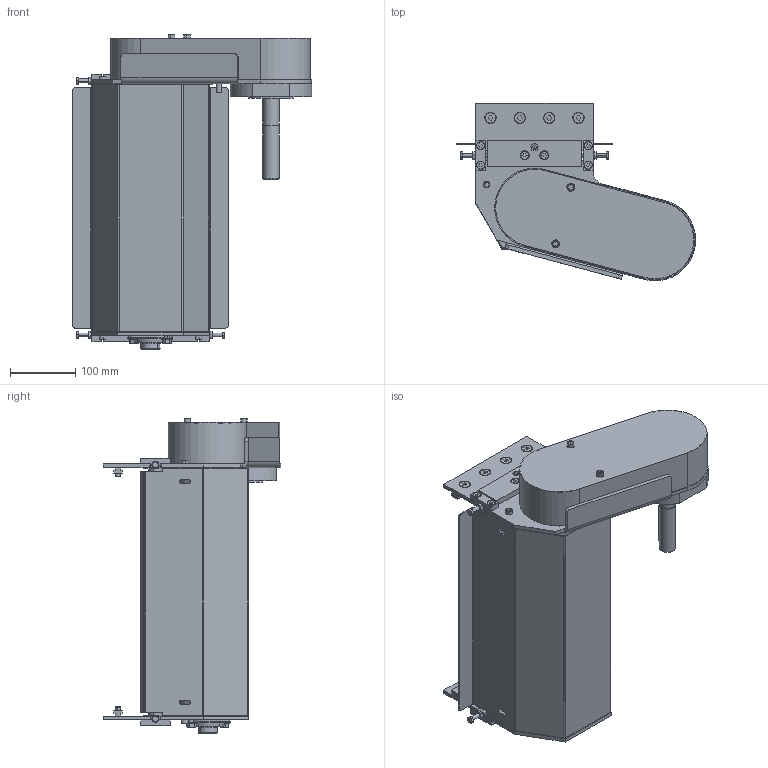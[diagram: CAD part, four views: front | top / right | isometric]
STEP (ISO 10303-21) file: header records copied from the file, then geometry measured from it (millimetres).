
FILE_DESCRIPTION (( 'STEP AP203' ), '1' );
FILE_NAME ('084.050.KCRD.49.350.STEP', '2020-02-20T07:39:57', ( 'Localadmin' ), ( 'Microsoft' ), 'SwSTEP 2.0', 'SolidWorks 2018', '' );
FILE_SCHEMA (( 'CONFIG_CONTROL_DESIGN' ));
Length unit declared in the file: millimetre
Products named in the file (38): 084.817.072_Default<A macchina>; DADI ESAGONALI NORMALI UNI 5588_M6 UNI 5588; 084.802.011; 084.813.008; 084.802.012; VITI TCEI UNI 5931_M6x70 UNI 5931; 084.810.003; 084.812.003; 084.307.006; RONDELLE UNI 6592_8.4x17 UNI 6592; CHIAVETTE_A 8x7x70 UNI 6604-69; 084.821.002; 084.809.006_Default<A macchina>; VITI TE UNI 5739_M8x12 UNI 5739; 084.821.009; CHIAVETTE_A 8x7x25 UNI 6604-69; 084.802.021; 084.810.009; VITI TSEI UNI 5933_M6x16 UNI 5933; 084.802.052; CUSCINETTI A SFERE_6004-2RS; 084.802.020; CUSCINETTI A SFERE_608-2RS; VITI TSEI UNI 5933_M8x20 UNI 5933; 084.817.075; SBPFL 205; 084.802.049; Circlip DIN 471 - 8 x 0.8_Circlip DIN 471 - 8 x 0.8; VITI TE UNI 5739_M8x30 UNI 5739; 084.817.074; VITI TCEI UNI 5931_M6x20 UNI 5931; 084.802.003-1; 084.810.007; 084.050.KCRD.49.350; 084.817.073; VITI TE UNI 5739_M6x50 UNI 5739; 084.802.004-1; 084.814.007
Assembly tree (90 placements, depth 3):
  084.050.KCRD.49.350
    084.821.009
    084.802.052  x2
    084.817.075
    084.817.074  x2
    084.817.073  x2
    084.817.072_Default<A macchina>
    084.802.012  x2
    084.307.006  x2
    084.809.006_Default<A macchina>
    084.810.007
      084.810.009
      CUSCINETTI A SFERE_608-2RS  x3
      Circlip DIN 471 - 8 x 0.8_Circlip DIN 471 - 8 x 0.8
    084.814.007
    084.813.008
    084.812.003
    084.821.002  x2
    084.802.021
    084.802.020
    084.802.049
    084.802.003-1
    084.802.004-1  x4
    084.802.011
    084.810.003  x2
    CHIAVETTE_A 8x7x70 UNI 6604-69
    CHIAVETTE_A 8x7x25 UNI 6604-69  x2
    CUSCINETTI A SFERE_6004-2RS  x4
    SBPFL 205
    VITI TCEI UNI 5931_M6x20 UNI 5931  x4
    VITI TE UNI 5739_M6x50 UNI 5739  x4
    DADI ESAGONALI NORMALI UNI 5588_M6 UNI 5588  x4
    VITI TCEI UNI 5931_M6x70 UNI 5931  x2
    RONDELLE UNI 6592_8.4x17 UNI 6592  x4
    VITI TE UNI 5739_M8x12 UNI 5739  x4
    VITI TSEI UNI 5933_M6x16 UNI 5933  x12
    VITI TSEI UNI 5933_M8x20 UNI 5933  x8
    VITI TE UNI 5739_M8x30 UNI 5739  x4
Bounding box: 367.47 x 272.33 x 484 mm (x, y, z)
Volume: 3396113.1 mm3; surface area: 1725341 mm2
Topology: 149 solids, 149 shells, 2994 faces, 7169 edges, 4598 vertices
Faces by surface type: plane 1448, cylinder 1001, cone 413, torus 112, sphere 20
Entity records: 59423 total; most frequent: CARTESIAN_POINT 9910, DIRECTION 9693, ORIENTED_EDGE 8710, EDGE_CURVE 4355, AXIS2_PLACEMENT_3D 3559, VERTEX_POINT 2832, VECTOR 2575, LINE 2575
